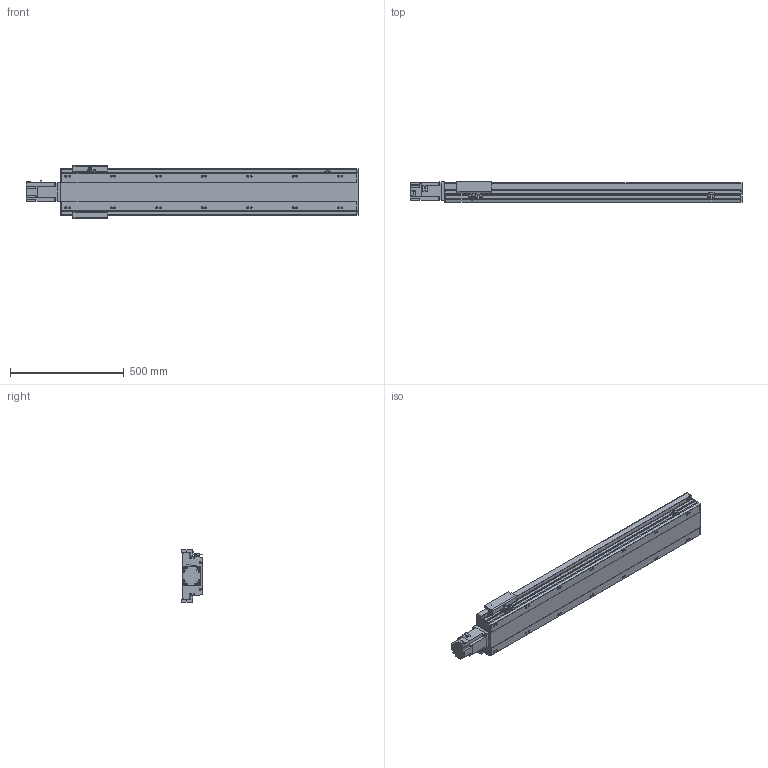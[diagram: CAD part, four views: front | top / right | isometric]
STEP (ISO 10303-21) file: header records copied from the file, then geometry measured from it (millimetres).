
FILE_DESCRIPTION(/* description */ ('STEP AP214'),/* implementation_level */ '2;1');
FILE_NAME(/* name */ 'PSM170-L10-S1050-BC-T75-C1-N(0)',/* time_stamp */ '2022-06-29T08:54:33+02:00',/* author */ ('License CC BY-ND 4.0'),/* organization */ ('CADENAS'),/* preprocessor_version */ 'ST-DEVELOPER v18.102',/* originating_system */ 'PARTsolutions',/* authorisation */ ' ');
FILE_SCHEMA (('AUTOMOTIVE_DESIGN {1 0 10303 214 3 1 1}'));
Length unit declared in the file: millimetre
Products named in the file (8): PSM170-L10-S1050-BC-T75-C1-N(0); PSM-Sensor; PSM140-S1050-1292.5; T75-p1; PSM170_body2; PSM170_body3; PSM170-S1050_body1; PSM170-L10-S1050-BC-T75-C1-N(0)_dummy
Assembly tree (11 placements, depth 2):
  PSM170-L10-S1050-BC-T75-C1-N(0)
    PSM-Sensor  x3
    PSM140-S1050-1292.5  x3
    T75-p1
    PSM170_body2
    PSM170_body3
    PSM170-S1050_body1
    PSM170-L10-S1050-BC-T75-C1-N(0)_dummy
Bounding box: 1461.3 x 92 x 233 mm (x, y, z)
Volume: 8667246.5 mm3; surface area: 1670060.1 mm2
Topology: 10 solids, 10 shells, 1087 faces, 2907 edges, 1892 vertices
Faces by surface type: plane 668, cylinder 337, cone 68, torus 14
Full cylindrical faces by diameter (mm): 2.8 x3, 3.08 x1, 4.134 x4, 4.5 x12, 4.6 x3, 5.7 x2, 6 x9, 6.647 x22, 7 x8, 7.6 x4, 8 x8, 8.5 x14, 10 x4, 14 x14, 45 x1, 70 x1
Entity records: 28740 total; most frequent: CARTESIAN_POINT 5350, DIRECTION 4774, ORIENTED_EDGE 4588, EDGE_CURVE 2294, AXIS2_PLACEMENT_3D 1623, VERTEX_POINT 1610, LINE 1528, VECTOR 1528
